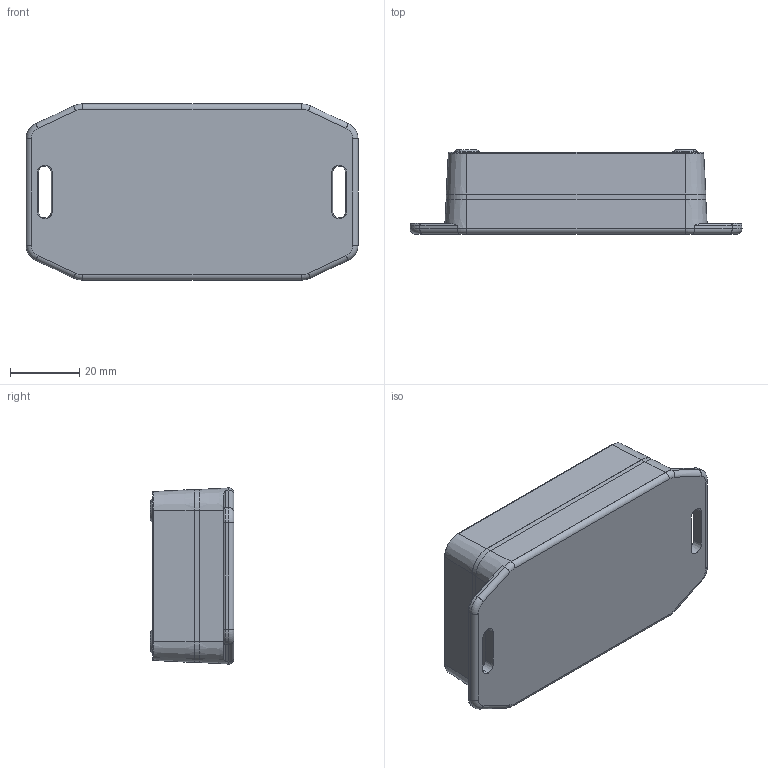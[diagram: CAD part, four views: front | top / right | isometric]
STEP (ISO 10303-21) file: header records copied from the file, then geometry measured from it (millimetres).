
FILE_DESCRIPTION (( 'STEP AP203' ), '1' );
FILE_NAME ('PF-5075-24.STEP', '2023-09-12T07:48:12', ( '' ), ( '' ), 'SwSTEP 2.0', 'SolidWorks 2021', '' );
FILE_SCHEMA (( 'CONFIG_CONTROL_DESIGN' ));
Length unit declared in the file: millimetre
Products named in the file (4): PF-5075-24
Assembly tree (9 placements, depth 2):
  PF-5075-24
    PF-5075-24
    PF-5075-24  x4
    PF-5075-24  x4
Bounding box: 95.88 x 24.25 x 50.89 mm (x, y, z)
Volume: 37994.5 mm3; surface area: 34466.3 mm2
Topology: 11 solids, 11 shells, 613 faces, 1504 edges, 976 vertices
Faces by surface type: plane 213, cone 196, cylinder 156, torus 32, sphere 8, bspline 8
Entity records: 14293 total; most frequent: CARTESIAN_POINT 2805, DIRECTION 2487, ORIENTED_EDGE 2162, EDGE_CURVE 1081, AXIS2_PLACEMENT_3D 995, VERTEX_POINT 706, CIRCLE 543, EDGE_LOOP 521
